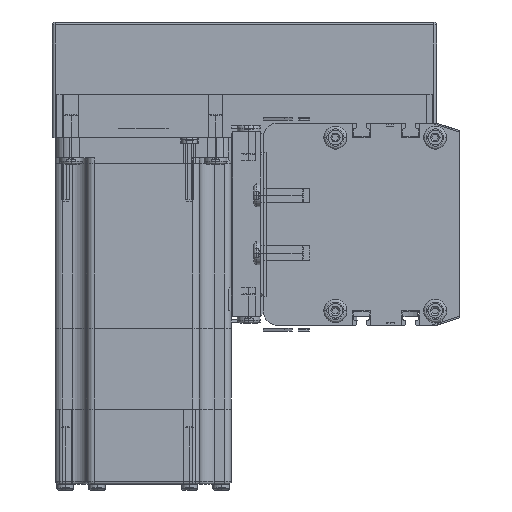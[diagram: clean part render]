
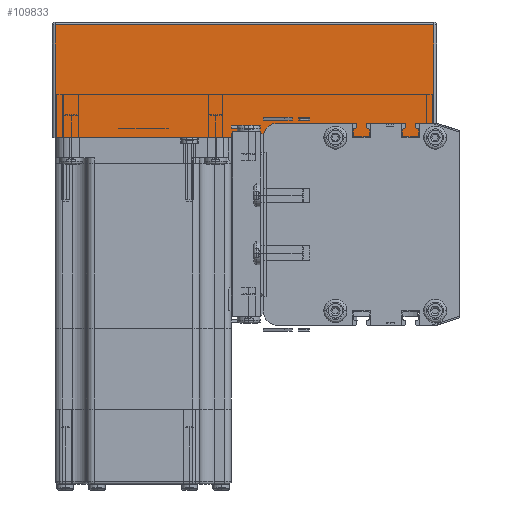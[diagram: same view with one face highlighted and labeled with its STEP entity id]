
A CAD part, left-side view. The second image highlights one B-rep face of the part: STEP entity #109833.
In plain terms, the highlighted planar face has unit normal (-1, 0, 0) as drawn and (0, -1, 0) by its records, which use the part's own axes.
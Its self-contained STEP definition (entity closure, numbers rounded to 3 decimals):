
#104309 = CARTESIAN_POINT ( 'NONE',  ( 1., 0., 0. ) ) ;
#104576 = CARTESIAN_POINT ( 'NONE',  ( 132., 0., 39. ) ) ;
#104589 = DIRECTION ( 'NONE',  ( 1., 0., 0. ) ) ;
#104591 = VECTOR ( 'NONE', #104589, 1000. ) ;
#104592 = CARTESIAN_POINT ( 'NONE',  ( 0., 0., 0. ) ) ;
#104594 = LINE ( 'NONE', #104592, #104591 ) ;
#109683 = EDGE_LOOP ( 'NONE', ( #109835, #109840, #109839, #110581 ) ) ;
#109833 = ADVANCED_FACE ( 'NONE', ( #116255 ), #116233, .F. ) ;
#109834 = VERTEX_POINT ( 'NONE', #116230 ) ;
#109835 = ORIENTED_EDGE ( 'NONE', *, *, #109837, .T. ) ;
#109836 = EDGE_CURVE ( 'NONE', #109834, #110483, #116240, .T. ) ;
#109837 = EDGE_CURVE ( 'NONE', #110590, #109834, #116232, .T. ) ;
#109838 = EDGE_CURVE ( 'NONE', #109928, #110590, #116291, .T. ) ;
#109839 = ORIENTED_EDGE ( 'NONE', *, *, #110568, .T. ) ;
#109840 = ORIENTED_EDGE ( 'NONE', *, *, #109836, .T. ) ;
#109928 = VERTEX_POINT ( 'NONE', #116466 ) ;
#110483 = VERTEX_POINT ( 'NONE', #104309 ) ;
#110568 = EDGE_CURVE ( 'NONE', #110483, #109928, #104594, .T. ) ;
#110581 = ORIENTED_EDGE ( 'NONE', *, *, #109838, .T. ) ;
#110590 = VERTEX_POINT ( 'NONE', #104576 ) ;
#116214 = DIRECTION ( 'NONE',  ( 0., 0., -1. ) ) ;
#116216 = VECTOR ( 'NONE', #116214, 1000. ) ;
#116218 = CARTESIAN_POINT ( 'NONE',  ( 1., 0., 40. ) ) ;
#116225 = DIRECTION ( 'NONE',  ( 0., 0., 1. ) ) ;
#116227 = DIRECTION ( 'NONE',  ( 0., 1., 0. ) ) ;
#116228 = CARTESIAN_POINT ( 'NONE',  ( 0., 0., 40. ) ) ;
#116230 = CARTESIAN_POINT ( 'NONE',  ( 1., 0., 39. ) ) ;
#116231 = CARTESIAN_POINT ( 'NONE',  ( 0., 0., 39. ) ) ;
#116232 = LINE ( 'NONE', #116231, #116295 ) ;
#116233 = PLANE ( 'NONE',  #116245 ) ;
#116240 = LINE ( 'NONE', #116218, #116216 ) ;
#116245 = AXIS2_PLACEMENT_3D ( 'NONE', #116228, #116227, #116225 ) ;
#116255 = FACE_OUTER_BOUND ( 'NONE', #109683, .T. ) ;
#116288 = DIRECTION ( 'NONE',  ( 0., 0., 1. ) ) ;
#116289 = VECTOR ( 'NONE', #116288, 1000. ) ;
#116290 = CARTESIAN_POINT ( 'NONE',  ( 132., 0., 40. ) ) ;
#116291 = LINE ( 'NONE', #116290, #116289 ) ;
#116294 = DIRECTION ( 'NONE',  ( -1., 0., 0. ) ) ;
#116295 = VECTOR ( 'NONE', #116294, 1000. ) ;
#116466 = CARTESIAN_POINT ( 'NONE',  ( 132., 0., 0. ) ) ;
